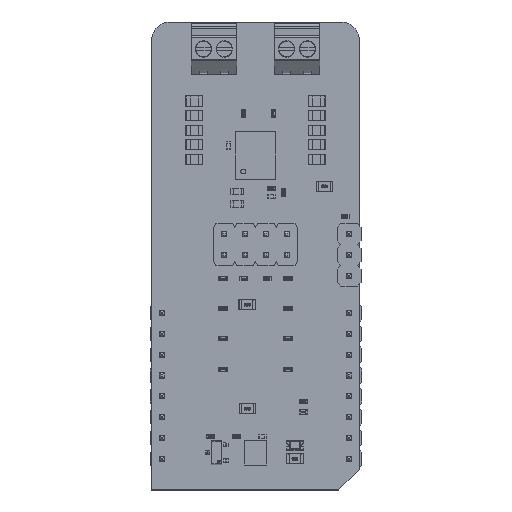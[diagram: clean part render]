
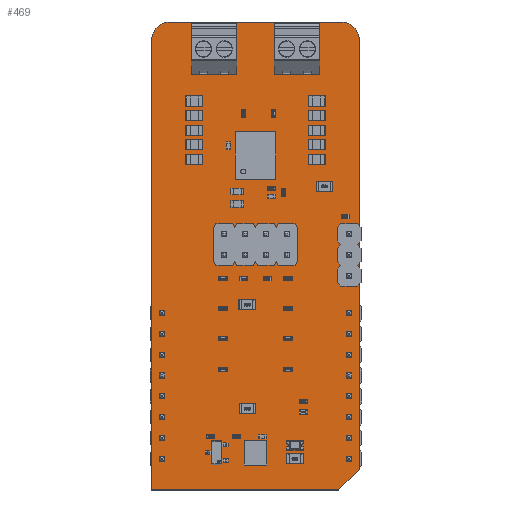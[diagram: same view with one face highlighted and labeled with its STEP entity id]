
A CAD part, top view. The second image highlights one B-rep face of the part: STEP entity #469.
In plain terms, the highlighted planar face has unit normal (0, 0, 1).
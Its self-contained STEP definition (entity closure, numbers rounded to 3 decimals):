
#240 = VERTEX_POINT('',#241);
#241 = CARTESIAN_POINT('',(-1.27,-3.81,1.59));
#247 = EDGE_CURVE('',#240,#248,#250,.T.);
#248 = VERTEX_POINT('',#249);
#249 = CARTESIAN_POINT('',(-1.27,51.054,1.59));
#250 = LINE('',#251,#252);
#251 = CARTESIAN_POINT('',(-1.27,-3.81,1.59));
#252 = VECTOR('',#253,1.);
#253 = DIRECTION('',(0.,1.,0.));
#278 = EDGE_CURVE('',#248,#279,#281,.T.);
#279 = VERTEX_POINT('',#280);
#280 = CARTESIAN_POINT('',(1.016,53.34,1.59));
#281 = CIRCLE('',#282,2.288);
#282 = AXIS2_PLACEMENT_3D('',#283,#284,#285);
#283 = CARTESIAN_POINT('',(1.018,51.052,1.59));
#284 = DIRECTION('',(0.,0.,-1.));
#285 = DIRECTION('',(-1.,0.001,0.));
#311 = EDGE_CURVE('',#279,#312,#314,.T.);
#312 = VERTEX_POINT('',#313);
#313 = CARTESIAN_POINT('',(21.844,53.34,1.59));
#314 = LINE('',#315,#316);
#315 = CARTESIAN_POINT('',(1.016,53.34,1.59));
#316 = VECTOR('',#317,1.);
#317 = DIRECTION('',(1.,0.,0.));
#342 = EDGE_CURVE('',#312,#343,#345,.T.);
#343 = VERTEX_POINT('',#344);
#344 = CARTESIAN_POINT('',(24.13,51.054,1.59));
#345 = CIRCLE('',#346,2.288);
#346 = AXIS2_PLACEMENT_3D('',#347,#348,#349);
#347 = CARTESIAN_POINT('',(21.842,51.052,1.59));
#348 = DIRECTION('',(0.,0.,-1.));
#349 = DIRECTION('',(0.001,1.,0.));
#375 = EDGE_CURVE('',#343,#376,#378,.T.);
#376 = VERTEX_POINT('',#377);
#377 = CARTESIAN_POINT('',(24.13,-1.27,1.59));
#378 = LINE('',#379,#380);
#379 = CARTESIAN_POINT('',(24.13,51.054,1.59));
#380 = VECTOR('',#381,1.);
#381 = DIRECTION('',(0.,-1.,0.));
#406 = EDGE_CURVE('',#376,#407,#409,.T.);
#407 = VERTEX_POINT('',#408);
#408 = CARTESIAN_POINT('',(21.59,-3.81,1.59));
#409 = LINE('',#410,#411);
#410 = CARTESIAN_POINT('',(24.13,-1.27,1.59));
#411 = VECTOR('',#412,1.);
#412 = DIRECTION('',(-0.707,-0.707,0.));
#437 = EDGE_CURVE('',#407,#240,#438,.T.);
#438 = LINE('',#439,#440);
#439 = CARTESIAN_POINT('',(21.59,-3.81,1.59));
#440 = VECTOR('',#441,1.);
#441 = DIRECTION('',(-1.,0.,0.));
#469 = ADVANCED_FACE('',(#470),#479,.F.);
#470 = FACE_BOUND('',#471,.F.);
#471 = EDGE_LOOP('',(#472,#473,#474,#475,#476,#477,#478));
#472 = ORIENTED_EDGE('',*,*,#247,.T.);
#473 = ORIENTED_EDGE('',*,*,#278,.T.);
#474 = ORIENTED_EDGE('',*,*,#311,.T.);
#475 = ORIENTED_EDGE('',*,*,#342,.T.);
#476 = ORIENTED_EDGE('',*,*,#375,.T.);
#477 = ORIENTED_EDGE('',*,*,#406,.T.);
#478 = ORIENTED_EDGE('',*,*,#437,.T.);
#479 = PLANE('',#480);
#480 = AXIS2_PLACEMENT_3D('',#481,#482,#483);
#481 = CARTESIAN_POINT('',(11.305,24.669,1.59));
#482 = DIRECTION('',(-0.,-0.,-1.));
#483 = DIRECTION('',(-1.,0.,0.));
